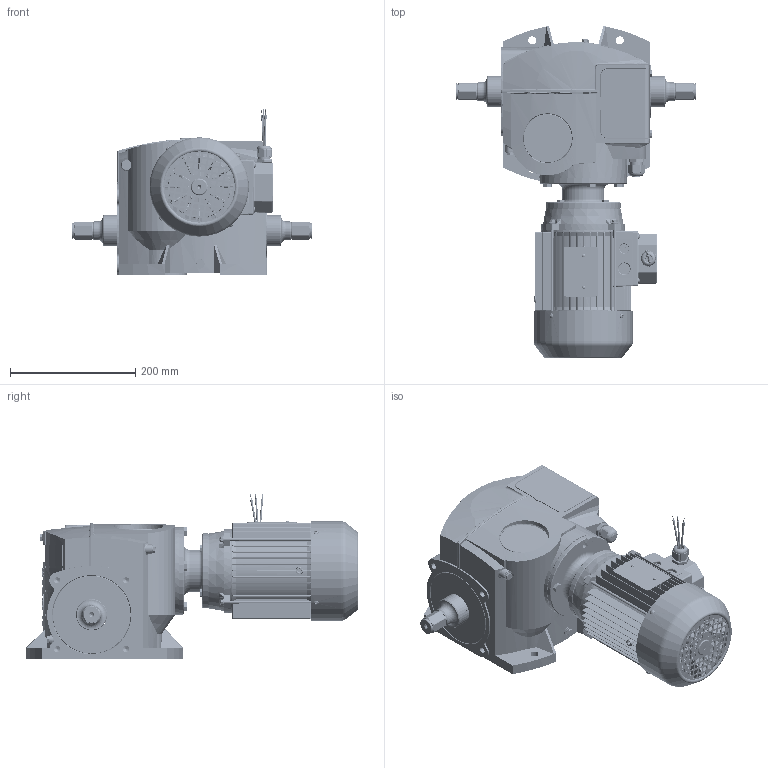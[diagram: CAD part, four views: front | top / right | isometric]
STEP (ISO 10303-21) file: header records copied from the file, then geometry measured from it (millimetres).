
FILE_DESCRIPTION (( 'STEP AP214' ), '1' );
FILE_NAME ('Elektroantrieb_EWA_10136502.STEP', '2023-03-14T13:49:14', ( '' ), ( '' ), 'SwSTEP 2.0', 'SolidWorks 2022', '' );
FILE_SCHEMA (( 'AUTOMOTIVE_DESIGN' ));
Length unit declared in the file: millimetre
Products named in the file (32): 010201066_Normteil_Kaufteil_3D__DE_DIN 913 - M4 x 5-N; Elektroantrieb_EWA_10136502; Sicherungselement_10101397; Verbindungselement_10101396; Kennzeichnung_10001854; Dichtelement_10001203; Schraube_10018291; Schneckenrad_10000544; 010200793_EWA_14_3D__DE; Elektroteil_10001640; Wälzlager_10101395; Gehäuse_10146042_END 20; Dichtelement_10001564; 010221020_EWA_16_3D__DE_84102.0360.PF01; Dichtelement_10101407; Welle_10001058; Deckel_10001319; Elektroantrieb_EWA_10104007_Ohne Inhalt; 010200792_EWA_14_3D__DE; Scheibe_10002061; Kennzeichnung_10102984; 010191515_Normteil_Kaufteil_3D-Modell_DE_10191515; Schraube_10057197; Elektroteil_10007290; Schraube_10014320; Dichtelement_10075545; Deckel_10028707_78x7; Elektroteil_10001639; Elektroteil_10028709; 010200791_EWA_14_3D__DE; 010186907__3D-Modell_DE_90000.0001.0239_10186907_DIN EN 24017 - M6 x 20-N; 010194926_EWA_16_3D-Modell_DE_90000.0002.3571_10194926
Assembly tree (41 placements, depth 4):
  Elektroantrieb_EWA_10136502
    Elektroantrieb_EWA_10104007_Ohne Inhalt
      Gehäuse_10146042_END 20
      010191515_Normteil_Kaufteil_3D-Modell_DE_10191515  x4
      Scheibe_10002061  x4
      Dichtelement_10075545
      Deckel_10001319
      Schraube_10018291  x2
      Elektroteil_10007290
        Elektroteil_10001639
        Elektroteil_10001640
      Elektroteil_10028709
      Wälzlager_10101395
      010194926_EWA_16_3D-Modell_DE_90000.0002.3571_10194926
        Welle_10001058
      Dichtelement_10101407
      Deckel_10028707_78x7
    Schraube_10014320
    010200791_EWA_14_3D__DE
      010200792_EWA_14_3D__DE
      010200793_EWA_14_3D__DE
      Dichtelement_10001203
      010186907__3D-Modell_DE_90000.0001.0239_10186907_DIN EN 24017 - M6 x 20-N  x4
      010201066_Normteil_Kaufteil_3D__DE_DIN 913 - M4 x 5-N
    Dichtelement_10001564
    010221020_EWA_16_3D__DE_84102.0360.PF01
    Schraube_10057197  x4
    Kennzeichnung_10001854
    Kennzeichnung_10102984
  Sicherungselement_10101397
  Verbindungselement_10101396
  Schneckenrad_10000544
Bounding box: 385 x 530.84 x 263.93 mm (x, y, z)
Volume: 3788341.2 mm3; surface area: 1469063.7 mm2
Topology: 90 solids, 92 shells, 8733 faces, 21989 edges, 13520 vertices
Faces by surface type: plane 3359, cylinder 2699, bspline 952, torus 850, cone 674, sphere 199
Entity records: 370771 total; most frequent: CARTESIAN_POINT 103319, ORIENTED_EDGE 42166, DIRECTION 38205, EDGE_CURVE 21083, AXIS2_PLACEMENT_3D 14523, VERTEX_POINT 13160, EDGE_LOOP 9195, LINE 9159
